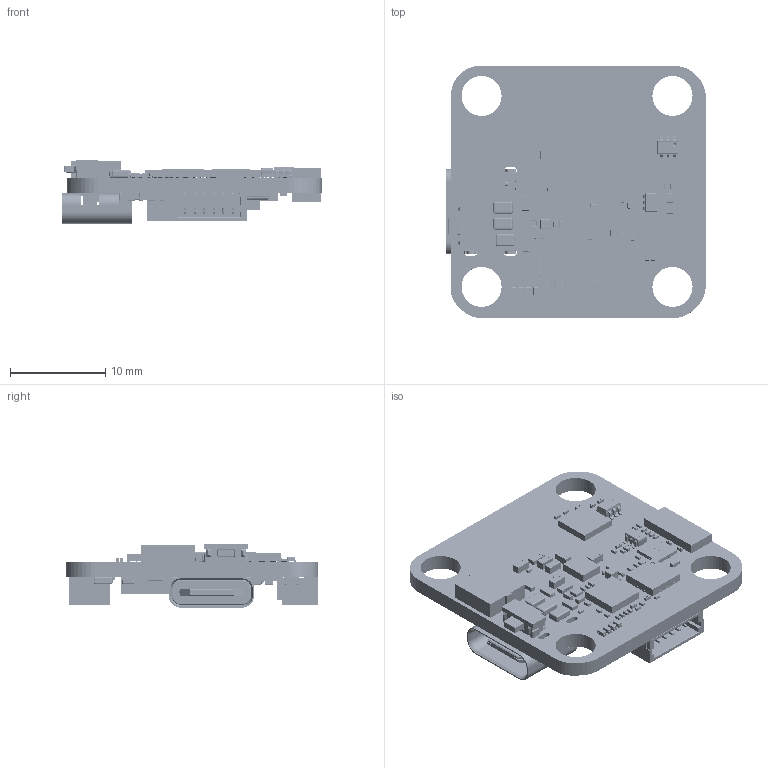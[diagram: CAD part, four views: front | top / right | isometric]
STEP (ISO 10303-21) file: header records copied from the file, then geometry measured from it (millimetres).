
FILE_DESCRIPTION(('Open CASCADE Model'),'2;1');
FILE_NAME('Open CASCADE Shape Model','2026-05-15T19:32:47',('Author'),( 'Open CASCADE'),'Open CASCADE STEP processor 6.8','Open CASCADE 6.8' ,'Unknown');
FILE_SCHEMA(('AUTOMOTIVE_DESIGN { 1 0 10303 214 1 1 1 1 }'));
Length unit declared in the file: millimetre
Products named in the file (224): PCB; Board; LED5; Unnamed-W21R-PCBModelW21R-U1-LED-SMD_4P-L1.0-W1.0-TL_
XL-1010RGBC-WS2812B; COMPOUND006; COMPOUND; COMPOUND001; COMPOUND002; COMPOUND003; COMPOUND004; COMPOUND005; C43; User_Library-C0402-1; C42; U9; Unnamed-PCBModelwR3J-U2; X2SON-4_L1.0-W1.0-P0.65-TL-EP; COMPOUND014; COMPOUND007; COMPOUND008; COMPOUND009; COMPOUND010; COMPOUND011; COMPOUND012; COMPOUND013; U6; Unnamed-PCBModelQFN-28_L4.0-W4.0-P0.40-TL-EP2.7; R23; User_Library-0201(0603M)_Cap; R13; User_Library-RES_0603-0201; R10; R5; Q1; L6; C57; C54; C50; C49; C48 ...
Assembly tree (366 placements, depth 6):
  PCB
    Board
    LED5
      Unnamed-W21R-PCBModelW21R-U1-LED-SMD_4P-L1.0-W1.0-TL_
XL-1010RGBC-WS2812B
        COMPOUND006
          COMPOUND
          COMPOUND001
          COMPOUND002
          COMPOUND003
          COMPOUND004
          COMPOUND005
    C43
      User_Library-C0402-1
    C42
      User_Library-C0402-1
    U9
      Unnamed-PCBModelwR3J-U2
        X2SON-4_L1.0-W1.0-P0.65-TL-EP
          COMPOUND014
            COMPOUND
            COMPOUND001
            COMPOUND002
            COMPOUND003
            COMPOUND004
            COMPOUND005
            COMPOUND006
            COMPOUND007
            COMPOUND008
            COMPOUND009
            COMPOUND010
            COMPOUND011
            COMPOUND012
            COMPOUND013
    U6
      Unnamed-PCBModelQFN-28_L4.0-W4.0-P0.40-TL-EP2.7
        COMPOUND
    R23
      User_Library-0201(0603M)_Cap
    R13
      User_Library-RES_0603-0201
    R10
      User_Library-RES_0603-0201
    R5
      User_Library-RES_0603-0201
    Q1
    L6
      User_Library-0201(0603M)_Cap
    C57
      User_Library-0201(0603M)_Cap
    C54
      User_Library-0201(0603M)_Cap
    C50
      User_Library-0201(0603M)_Cap
    C49
      User_Library-0201(0603M)_Cap
    C48
      User_Library-0201(0603M)_Cap
    C47
      User_Library-0201(0603M)_Cap
    C46
Bounding box: 27.19 x 26.45 x 6.62 mm (x, y, z)
Volume: 1542.5 mm3; surface area: 4004.1 mm2
Topology: 567 solids, 568 shells, 19334 faces, 65747 edges, 64546 vertices
Faces by surface type: plane 10858, bspline 5847, cylinder 2229, sphere 376, torus 12, cone 8, revolution 4
Full cylindrical faces by diameter (mm): 0.5 x1, 0.65 x2, 0.7 x2, 4.2 x4
Entity records: 391131 total; most frequent: CARTESIAN_POINT 130150, DIRECTION 39844, ORIENTED_EDGE 35235, LINE 23380, VECTOR 23380, EDGE_CURVE 17618, GEOMETRIC_CURVE_SET 13752, TRIMMED_CURVE 13752
